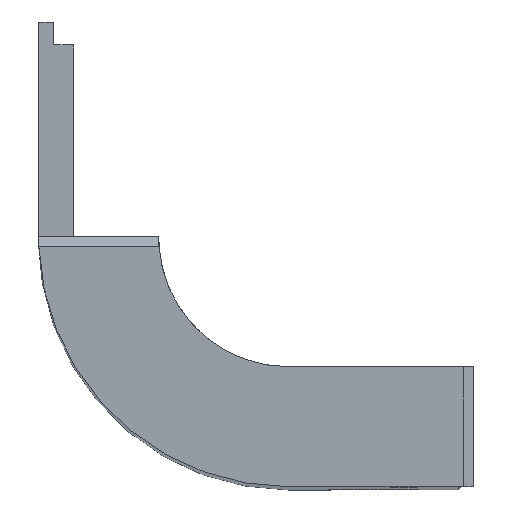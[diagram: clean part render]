
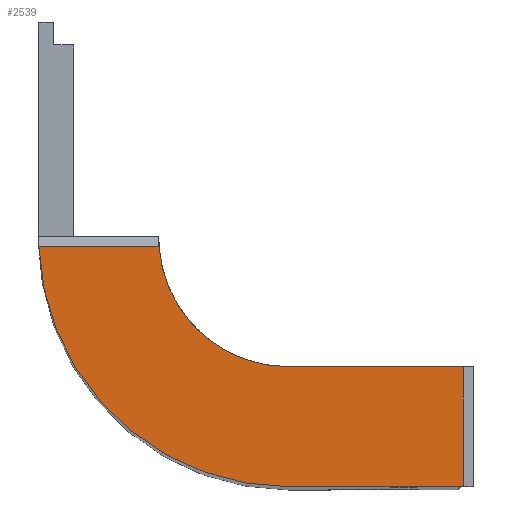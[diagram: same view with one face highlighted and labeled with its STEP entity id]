
A CAD part, top view. The second image highlights one B-rep face of the part: STEP entity #2539.
In plain terms, the highlighted planar face has unit normal (0, 0, 1).
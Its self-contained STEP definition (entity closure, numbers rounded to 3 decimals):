
#66 = LINE ( 'NONE', #1660, #2594 ) ;
#258 = AXIS2_PLACEMENT_3D ( 'NONE', #1676, #1917, #932 ) ;
#304 = CARTESIAN_POINT ( 'NONE',  ( 0., 0., 373.5 ) ) ;
#418 = DIRECTION ( 'NONE',  ( 1., 0., 0. ) ) ;
#601 = EDGE_CURVE ( 'NONE', #1050, #1915, #2164, .T. ) ;
#660 = AXIS2_PLACEMENT_3D ( 'NONE', #903, #892, #418 ) ;
#772 = EDGE_CURVE ( 'NONE', #1915, #2054, #3122, .T. ) ;
#784 = VECTOR ( 'NONE', #1285, 1000. ) ;
#868 = VECTOR ( 'NONE', #1799, 1000. ) ;
#892 = DIRECTION ( 'NONE',  ( 0., 0., 1. ) ) ;
#903 = CARTESIAN_POINT ( 'NONE',  ( 0., 0., 373.5 ) ) ;
#932 = DIRECTION ( 'NONE',  ( 1., 0., 0. ) ) ;
#965 = CARTESIAN_POINT ( 'NONE',  ( 17.5, -13., 373.5 ) ) ;
#1006 = EDGE_CURVE ( 'NONE', #2054, #2445, #3009, .T. ) ;
#1023 = DIRECTION ( 'NONE',  ( 0., 0., -1. ) ) ;
#1040 = ORIENTED_EDGE ( 'NONE', *, *, #1006, .T. ) ;
#1050 = VERTEX_POINT ( 'NONE', #1894 ) ;
#1195 = DIRECTION ( 'NONE',  ( -1., 0., 0. ) ) ;
#1208 = CIRCLE ( 'NONE', #2553, 13. ) ;
#1285 = DIRECTION ( 'NONE',  ( -1., 0., 0. ) ) ;
#1331 = ORIENTED_EDGE ( 'NONE', *, *, #1742, .T. ) ;
#1369 = EDGE_CURVE ( 'NONE', #2130, #1760, #66, .T. ) ;
#1395 = CARTESIAN_POINT ( 'NONE',  ( 0., -25., 373.5 ) ) ;
#1449 = ORIENTED_EDGE ( 'NONE', *, *, #1369, .T. ) ;
#1507 = CARTESIAN_POINT ( 'NONE',  ( -25., -1., 373.5 ) ) ;
#1651 = ORIENTED_EDGE ( 'NONE', *, *, #772, .T. ) ;
#1660 = CARTESIAN_POINT ( 'NONE',  ( 18.5, -13., 373.5 ) ) ;
#1676 = CARTESIAN_POINT ( 'NONE',  ( 0., 0., 373.5 ) ) ;
#1688 = PLANE ( 'NONE',  #258 ) ;
#1742 = EDGE_CURVE ( 'NONE', #2445, #2130, #2920, .T. ) ;
#1760 = VERTEX_POINT ( 'NONE', #2032 ) ;
#1799 = DIRECTION ( 'NONE',  ( 0., 1., 0. ) ) ;
#1866 = EDGE_CURVE ( 'NONE', #1760, #1050, #1208, .T. ) ;
#1885 = FACE_OUTER_BOUND ( 'NONE', #2801, .T. ) ;
#1894 = CARTESIAN_POINT ( 'NONE',  ( -12.961, -1., 373.5 ) ) ;
#1915 = VERTEX_POINT ( 'NONE', #2475 ) ;
#1917 = DIRECTION ( 'NONE',  ( 0., 0., 1. ) ) ;
#2031 = ORIENTED_EDGE ( 'NONE', *, *, #601, .T. ) ;
#2032 = CARTESIAN_POINT ( 'NONE',  ( 0., -13., 373.5 ) ) ;
#2054 = VERTEX_POINT ( 'NONE', #3107 ) ;
#2106 = CARTESIAN_POINT ( 'NONE',  ( 17.5, -25., 373.5 ) ) ;
#2130 = VERTEX_POINT ( 'NONE', #965 ) ;
#2147 = VECTOR ( 'NONE', #3071, 1000. ) ;
#2164 = LINE ( 'NONE', #1507, #784 ) ;
#2445 = VERTEX_POINT ( 'NONE', #2106 ) ;
#2475 = CARTESIAN_POINT ( 'NONE',  ( -24.98, -1., 373.5 ) ) ;
#2506 = CARTESIAN_POINT ( 'NONE',  ( 17.5, -13., 373.5 ) ) ;
#2539 = ADVANCED_FACE ( 'NONE', ( #1885 ), #1688, .T. ) ;
#2553 = AXIS2_PLACEMENT_3D ( 'NONE', #304, #1023, #2736 ) ;
#2594 = VECTOR ( 'NONE', #1195, 1000. ) ;
#2736 = DIRECTION ( 'NONE',  ( 1., 0., 0. ) ) ;
#2801 = EDGE_LOOP ( 'NONE', ( #1040, #1331, #1449, #3000, #2031, #1651 ) ) ;
#2920 = LINE ( 'NONE', #2506, #868 ) ;
#3000 = ORIENTED_EDGE ( 'NONE', *, *, #1866, .T. ) ;
#3009 = LINE ( 'NONE', #1395, #2147 ) ;
#3071 = DIRECTION ( 'NONE',  ( 1., 0., 0. ) ) ;
#3107 = CARTESIAN_POINT ( 'NONE',  ( 0., -25., 373.5 ) ) ;
#3122 = CIRCLE ( 'NONE', #660, 25. ) ;
